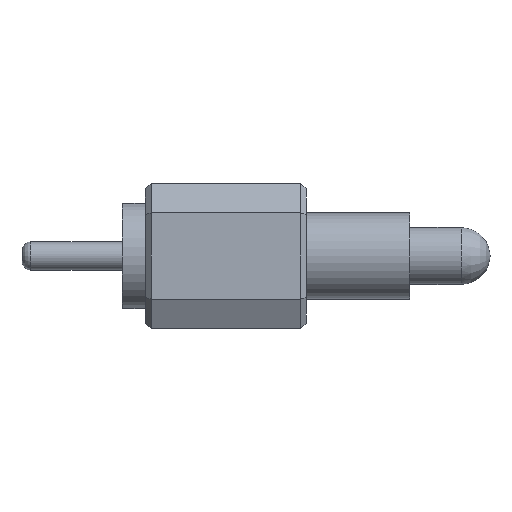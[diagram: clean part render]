
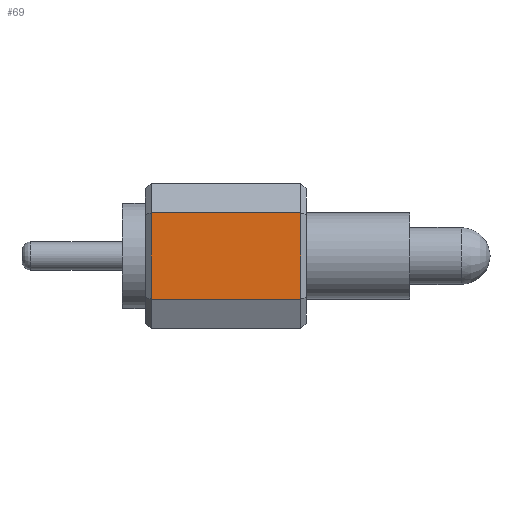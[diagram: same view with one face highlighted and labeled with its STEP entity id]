
A CAD part, front view. The second image highlights one B-rep face of the part: STEP entity #69.
In plain terms, the highlighted planar face has unit normal (0, -1, 0).
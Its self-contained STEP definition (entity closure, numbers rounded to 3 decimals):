
#69 = ADVANCED_FACE('',(#70),#84,.F.);
#70 = FACE_BOUND('',#71,.F.);
#71 = EDGE_LOOP('',(#72,#107,#135,#163));
#72 = ORIENTED_EDGE('',*,*,#73,.T.);
#73 = EDGE_CURVE('',#74,#76,#78,.T.);
#74 = VERTEX_POINT('',#75);
#75 = CARTESIAN_POINT('',(0.5,-1.27,0.75));
#76 = VERTEX_POINT('',#77);
#77 = CARTESIAN_POINT('',(3.1,-1.27,0.75));
#78 = SURFACE_CURVE('',#79,(#83,#95),.PCURVE_S1.);
#79 = LINE('',#80,#81);
#80 = CARTESIAN_POINT('',(0.4,-1.27,0.75));
#81 = VECTOR('',#82,1.);
#82 = DIRECTION('',(1.,0.,0.));
#83 = PCURVE('',#84,#89);
#84 = PLANE('',#85);
#85 = AXIS2_PLACEMENT_3D('',#86,#87,#88);
#86 = CARTESIAN_POINT('',(0.4,-1.27,0.75));
#87 = DIRECTION('',(0.,1.,0.));
#88 = DIRECTION('',(0.,0.,-1.));
#89 = DEFINITIONAL_REPRESENTATION('',(#90),#94);
#90 = LINE('',#91,#92);
#91 = CARTESIAN_POINT('',(0.,0.));
#92 = VECTOR('',#93,1.);
#93 = DIRECTION('',(0.,-1.));
#94 = ( GEOMETRIC_REPRESENTATION_CONTEXT(2) 
PARAMETRIC_REPRESENTATION_CONTEXT() REPRESENTATION_CONTEXT('2D SPACE',''
  ) );
#95 = PCURVE('',#96,#101);
#96 = PLANE('',#97);
#97 = AXIS2_PLACEMENT_3D('',#98,#99,#100);
#98 = CARTESIAN_POINT('',(0.4,-1.,1.27));
#99 = DIRECTION('',(0.,0.887,-0.461));
#100 = DIRECTION('',(0.,-0.461,-0.887));
#101 = DEFINITIONAL_REPRESENTATION('',(#102),#106);
#102 = LINE('',#103,#104);
#103 = CARTESIAN_POINT('',(0.586,0.));
#104 = VECTOR('',#105,1.);
#105 = DIRECTION('',(0.,-1.));
#106 = ( GEOMETRIC_REPRESENTATION_CONTEXT(2) 
PARAMETRIC_REPRESENTATION_CONTEXT() REPRESENTATION_CONTEXT('2D SPACE',''
  ) );
#107 = ORIENTED_EDGE('',*,*,#108,.T.);
#108 = EDGE_CURVE('',#76,#109,#111,.T.);
#109 = VERTEX_POINT('',#110);
#110 = CARTESIAN_POINT('',(3.1,-1.27,-0.75));
#111 = SURFACE_CURVE('',#112,(#116,#123),.PCURVE_S1.);
#112 = LINE('',#113,#114);
#113 = CARTESIAN_POINT('',(3.1,-1.27,0.75));
#114 = VECTOR('',#115,1.);
#115 = DIRECTION('',(0.,0.,-1.));
#116 = PCURVE('',#84,#117);
#117 = DEFINITIONAL_REPRESENTATION('',(#118),#122);
#118 = LINE('',#119,#120);
#119 = CARTESIAN_POINT('',(0.,-2.7));
#120 = VECTOR('',#121,1.);
#121 = DIRECTION('',(1.,0.));
#122 = ( GEOMETRIC_REPRESENTATION_CONTEXT(2) 
PARAMETRIC_REPRESENTATION_CONTEXT() REPRESENTATION_CONTEXT('2D SPACE',''
  ) );
#123 = PCURVE('',#124,#129);
#124 = PLANE('',#125);
#125 = AXIS2_PLACEMENT_3D('',#126,#127,#128);
#126 = CARTESIAN_POINT('',(3.15,-1.22,0.75));
#127 = DIRECTION('',(-0.707,0.707,0.));
#128 = DIRECTION('',(0.,0.,1.));
#129 = DEFINITIONAL_REPRESENTATION('',(#130),#134);
#130 = LINE('',#131,#132);
#131 = CARTESIAN_POINT('',(0.,-0.071));
#132 = VECTOR('',#133,1.);
#133 = DIRECTION('',(-1.,0.));
#134 = ( GEOMETRIC_REPRESENTATION_CONTEXT(2) 
PARAMETRIC_REPRESENTATION_CONTEXT() REPRESENTATION_CONTEXT('2D SPACE',''
  ) );
#135 = ORIENTED_EDGE('',*,*,#136,.F.);
#136 = EDGE_CURVE('',#137,#109,#139,.T.);
#137 = VERTEX_POINT('',#138);
#138 = CARTESIAN_POINT('',(0.5,-1.27,-0.75));
#139 = SURFACE_CURVE('',#140,(#144,#151),.PCURVE_S1.);
#140 = LINE('',#141,#142);
#141 = CARTESIAN_POINT('',(0.4,-1.27,-0.75));
#142 = VECTOR('',#143,1.);
#143 = DIRECTION('',(1.,0.,0.));
#144 = PCURVE('',#84,#145);
#145 = DEFINITIONAL_REPRESENTATION('',(#146),#150);
#146 = LINE('',#147,#148);
#147 = CARTESIAN_POINT('',(1.5,0.));
#148 = VECTOR('',#149,1.);
#149 = DIRECTION('',(0.,-1.));
#150 = ( GEOMETRIC_REPRESENTATION_CONTEXT(2) 
PARAMETRIC_REPRESENTATION_CONTEXT() REPRESENTATION_CONTEXT('2D SPACE',''
  ) );
#151 = PCURVE('',#152,#157);
#152 = PLANE('',#153);
#153 = AXIS2_PLACEMENT_3D('',#154,#155,#156);
#154 = CARTESIAN_POINT('',(0.4,-1.27,-0.75));
#155 = DIRECTION('',(0.,0.887,0.461));
#156 = DIRECTION('',(0.,0.461,-0.887));
#157 = DEFINITIONAL_REPRESENTATION('',(#158),#162);
#158 = LINE('',#159,#160);
#159 = CARTESIAN_POINT('',(0.,0.));
#160 = VECTOR('',#161,1.);
#161 = DIRECTION('',(0.,-1.));
#162 = ( GEOMETRIC_REPRESENTATION_CONTEXT(2) 
PARAMETRIC_REPRESENTATION_CONTEXT() REPRESENTATION_CONTEXT('2D SPACE',''
  ) );
#163 = ORIENTED_EDGE('',*,*,#164,.F.);
#164 = EDGE_CURVE('',#74,#137,#165,.T.);
#165 = SURFACE_CURVE('',#166,(#170,#177),.PCURVE_S1.);
#166 = LINE('',#167,#168);
#167 = CARTESIAN_POINT('',(0.5,-1.27,0.75));
#168 = VECTOR('',#169,1.);
#169 = DIRECTION('',(0.,0.,-1.));
#170 = PCURVE('',#84,#171);
#171 = DEFINITIONAL_REPRESENTATION('',(#172),#176);
#172 = LINE('',#173,#174);
#173 = CARTESIAN_POINT('',(0.,-0.1));
#174 = VECTOR('',#175,1.);
#175 = DIRECTION('',(1.,0.));
#176 = ( GEOMETRIC_REPRESENTATION_CONTEXT(2) 
PARAMETRIC_REPRESENTATION_CONTEXT() REPRESENTATION_CONTEXT('2D SPACE',''
  ) );
#177 = PCURVE('',#178,#183);
#178 = PLANE('',#179);
#179 = AXIS2_PLACEMENT_3D('',#180,#181,#182);
#180 = CARTESIAN_POINT('',(0.45,-1.22,0.75));
#181 = DIRECTION('',(-0.707,-0.707,-0.));
#182 = DIRECTION('',(0.,0.,1.));
#183 = DEFINITIONAL_REPRESENTATION('',(#184),#188);
#184 = LINE('',#185,#186);
#185 = CARTESIAN_POINT('',(0.,-0.071));
#186 = VECTOR('',#187,1.);
#187 = DIRECTION('',(-1.,0.));
#188 = ( GEOMETRIC_REPRESENTATION_CONTEXT(2) 
PARAMETRIC_REPRESENTATION_CONTEXT() REPRESENTATION_CONTEXT('2D SPACE',''
  ) );
